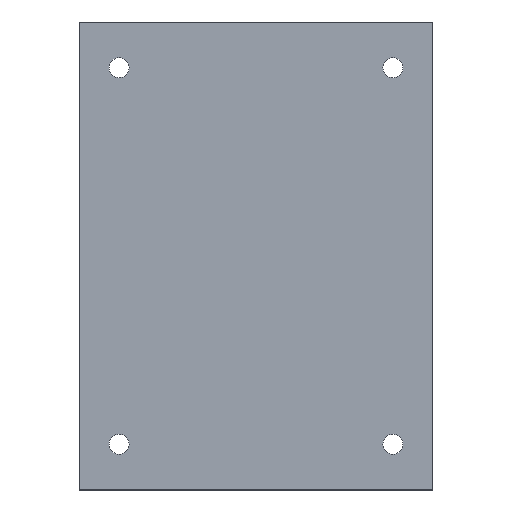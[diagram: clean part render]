
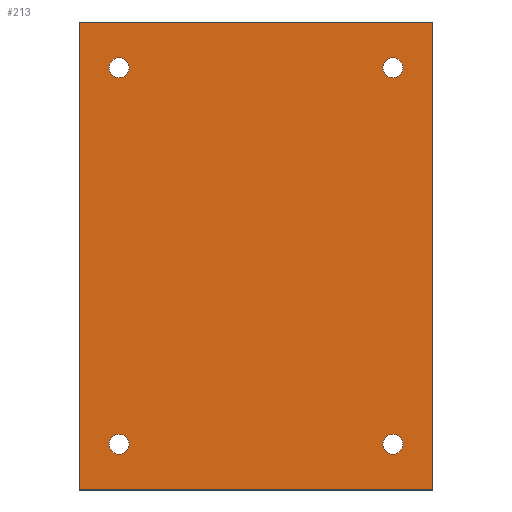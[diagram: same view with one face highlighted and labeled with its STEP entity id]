
A CAD part, top view. The second image highlights one B-rep face of the part: STEP entity #213.
In plain terms, the highlighted planar face has unit normal (0, 0, 1).
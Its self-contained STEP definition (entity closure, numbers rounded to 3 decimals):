
#24 = VERTEX_POINT('',#25);
#25 = CARTESIAN_POINT('',(0.,0.,3.));
#32 = PLANE('',#33);
#33 = AXIS2_PLACEMENT_3D('',#34,#35,#36);
#34 = CARTESIAN_POINT('',(0.,0.,0.));
#35 = DIRECTION('',(1.,0.,0.));
#36 = DIRECTION('',(0.,0.,1.));
#44 = PLANE('',#45);
#45 = AXIS2_PLACEMENT_3D('',#46,#47,#48);
#46 = CARTESIAN_POINT('',(0.,0.,0.));
#47 = DIRECTION('',(0.,1.,0.));
#48 = DIRECTION('',(0.,0.,1.));
#85 = VERTEX_POINT('',#86);
#86 = CARTESIAN_POINT('',(0.,82.,3.));
#100 = PLANE('',#101);
#101 = AXIS2_PLACEMENT_3D('',#102,#103,#104);
#102 = CARTESIAN_POINT('',(0.,82.,0.));
#103 = DIRECTION('',(0.,1.,0.));
#104 = DIRECTION('',(0.,0.,1.));
#112 = EDGE_CURVE('',#24,#85,#113,.T.);
#113 = SURFACE_CURVE('',#114,(#118,#125),.PCURVE_S1.);
#114 = LINE('',#115,#116);
#115 = CARTESIAN_POINT('',(0.,0.,3.));
#116 = VECTOR('',#117,1.);
#117 = DIRECTION('',(0.,1.,0.));
#118 = PCURVE('',#32,#119);
#119 = DEFINITIONAL_REPRESENTATION('',(#120),#124);
#120 = LINE('',#121,#122);
#121 = CARTESIAN_POINT('',(3.,0.));
#122 = VECTOR('',#123,1.);
#123 = DIRECTION('',(0.,-1.));
#124 = ( GEOMETRIC_REPRESENTATION_CONTEXT(2) 
PARAMETRIC_REPRESENTATION_CONTEXT() REPRESENTATION_CONTEXT('2D SPACE',''
  ) );
#125 = PCURVE('',#126,#131);
#126 = PLANE('',#127);
#127 = AXIS2_PLACEMENT_3D('',#128,#129,#130);
#128 = CARTESIAN_POINT('',(0.,0.,3.));
#129 = DIRECTION('',(0.,0.,1.));
#130 = DIRECTION('',(1.,0.,0.));
#131 = DEFINITIONAL_REPRESENTATION('',(#132),#136);
#132 = LINE('',#133,#134);
#133 = CARTESIAN_POINT('',(0.,0.));
#134 = VECTOR('',#135,1.);
#135 = DIRECTION('',(0.,1.));
#136 = ( GEOMETRIC_REPRESENTATION_CONTEXT(2) 
PARAMETRIC_REPRESENTATION_CONTEXT() REPRESENTATION_CONTEXT('2D SPACE',''
  ) );
#165 = EDGE_CURVE('',#24,#166,#168,.T.);
#166 = VERTEX_POINT('',#167);
#167 = CARTESIAN_POINT('',(62.,0.,3.));
#168 = SURFACE_CURVE('',#169,(#173,#180),.PCURVE_S1.);
#169 = LINE('',#170,#171);
#170 = CARTESIAN_POINT('',(0.,0.,3.));
#171 = VECTOR('',#172,1.);
#172 = DIRECTION('',(1.,0.,0.));
#173 = PCURVE('',#44,#174);
#174 = DEFINITIONAL_REPRESENTATION('',(#175),#179);
#175 = LINE('',#176,#177);
#176 = CARTESIAN_POINT('',(3.,0.));
#177 = VECTOR('',#178,1.);
#178 = DIRECTION('',(0.,1.));
#179 = ( GEOMETRIC_REPRESENTATION_CONTEXT(2) 
PARAMETRIC_REPRESENTATION_CONTEXT() REPRESENTATION_CONTEXT('2D SPACE',''
  ) );
#180 = PCURVE('',#126,#181);
#181 = DEFINITIONAL_REPRESENTATION('',(#182),#186);
#182 = LINE('',#183,#184);
#183 = CARTESIAN_POINT('',(0.,0.));
#184 = VECTOR('',#185,1.);
#185 = DIRECTION('',(1.,0.));
#186 = ( GEOMETRIC_REPRESENTATION_CONTEXT(2) 
PARAMETRIC_REPRESENTATION_CONTEXT() REPRESENTATION_CONTEXT('2D SPACE',''
  ) );
#202 = PLANE('',#203);
#203 = AXIS2_PLACEMENT_3D('',#204,#205,#206);
#204 = CARTESIAN_POINT('',(62.,0.,0.));
#205 = DIRECTION('',(1.,0.,0.));
#206 = DIRECTION('',(0.,0.,1.));
#213 = ADVANCED_FACE('',(#214,#262,#293,#324,#355),#126,.T.);
#214 = FACE_BOUND('',#215,.T.);
#215 = EDGE_LOOP('',(#216,#217,#218,#241));
#216 = ORIENTED_EDGE('',*,*,#112,.F.);
#217 = ORIENTED_EDGE('',*,*,#165,.T.);
#218 = ORIENTED_EDGE('',*,*,#219,.T.);
#219 = EDGE_CURVE('',#166,#220,#222,.T.);
#220 = VERTEX_POINT('',#221);
#221 = CARTESIAN_POINT('',(62.,82.,3.));
#222 = SURFACE_CURVE('',#223,(#227,#234),.PCURVE_S1.);
#223 = LINE('',#224,#225);
#224 = CARTESIAN_POINT('',(62.,0.,3.));
#225 = VECTOR('',#226,1.);
#226 = DIRECTION('',(0.,1.,0.));
#227 = PCURVE('',#126,#228);
#228 = DEFINITIONAL_REPRESENTATION('',(#229),#233);
#229 = LINE('',#230,#231);
#230 = CARTESIAN_POINT('',(62.,0.));
#231 = VECTOR('',#232,1.);
#232 = DIRECTION('',(0.,1.));
#233 = ( GEOMETRIC_REPRESENTATION_CONTEXT(2) 
PARAMETRIC_REPRESENTATION_CONTEXT() REPRESENTATION_CONTEXT('2D SPACE',''
  ) );
#234 = PCURVE('',#202,#235);
#235 = DEFINITIONAL_REPRESENTATION('',(#236),#240);
#236 = LINE('',#237,#238);
#237 = CARTESIAN_POINT('',(3.,0.));
#238 = VECTOR('',#239,1.);
#239 = DIRECTION('',(0.,-1.));
#240 = ( GEOMETRIC_REPRESENTATION_CONTEXT(2) 
PARAMETRIC_REPRESENTATION_CONTEXT() REPRESENTATION_CONTEXT('2D SPACE',''
  ) );
#241 = ORIENTED_EDGE('',*,*,#242,.F.);
#242 = EDGE_CURVE('',#85,#220,#243,.T.);
#243 = SURFACE_CURVE('',#244,(#248,#255),.PCURVE_S1.);
#244 = LINE('',#245,#246);
#245 = CARTESIAN_POINT('',(0.,82.,3.));
#246 = VECTOR('',#247,1.);
#247 = DIRECTION('',(1.,0.,0.));
#248 = PCURVE('',#126,#249);
#249 = DEFINITIONAL_REPRESENTATION('',(#250),#254);
#250 = LINE('',#251,#252);
#251 = CARTESIAN_POINT('',(0.,82.));
#252 = VECTOR('',#253,1.);
#253 = DIRECTION('',(1.,0.));
#254 = ( GEOMETRIC_REPRESENTATION_CONTEXT(2) 
PARAMETRIC_REPRESENTATION_CONTEXT() REPRESENTATION_CONTEXT('2D SPACE',''
  ) );
#255 = PCURVE('',#100,#256);
#256 = DEFINITIONAL_REPRESENTATION('',(#257),#261);
#257 = LINE('',#258,#259);
#258 = CARTESIAN_POINT('',(3.,0.));
#259 = VECTOR('',#260,1.);
#260 = DIRECTION('',(0.,1.));
#261 = ( GEOMETRIC_REPRESENTATION_CONTEXT(2) 
PARAMETRIC_REPRESENTATION_CONTEXT() REPRESENTATION_CONTEXT('2D SPACE',''
  ) );
#262 = FACE_BOUND('',#263,.T.);
#263 = EDGE_LOOP('',(#264));
#264 = ORIENTED_EDGE('',*,*,#265,.F.);
#265 = EDGE_CURVE('',#266,#266,#268,.T.);
#266 = VERTEX_POINT('',#267);
#267 = CARTESIAN_POINT('',(8.75,8.,3.));
#268 = SURFACE_CURVE('',#269,(#274,#281),.PCURVE_S1.);
#269 = CIRCLE('',#270,1.75);
#270 = AXIS2_PLACEMENT_3D('',#271,#272,#273);
#271 = CARTESIAN_POINT('',(7.,8.,3.));
#272 = DIRECTION('',(0.,0.,1.));
#273 = DIRECTION('',(1.,0.,-0.));
#274 = PCURVE('',#126,#275);
#275 = DEFINITIONAL_REPRESENTATION('',(#276),#280);
#276 = CIRCLE('',#277,1.75);
#277 = AXIS2_PLACEMENT_2D('',#278,#279);
#278 = CARTESIAN_POINT('',(7.,8.));
#279 = DIRECTION('',(1.,0.));
#280 = ( GEOMETRIC_REPRESENTATION_CONTEXT(2) 
PARAMETRIC_REPRESENTATION_CONTEXT() REPRESENTATION_CONTEXT('2D SPACE',''
  ) );
#281 = PCURVE('',#282,#287);
#282 = CYLINDRICAL_SURFACE('',#283,1.75);
#283 = AXIS2_PLACEMENT_3D('',#284,#285,#286);
#284 = CARTESIAN_POINT('',(7.,8.,-1.));
#285 = DIRECTION('',(0.,0.,1.));
#286 = DIRECTION('',(1.,0.,-0.));
#287 = DEFINITIONAL_REPRESENTATION('',(#288),#292);
#288 = LINE('',#289,#290);
#289 = CARTESIAN_POINT('',(0.,4.));
#290 = VECTOR('',#291,1.);
#291 = DIRECTION('',(1.,0.));
#292 = ( GEOMETRIC_REPRESENTATION_CONTEXT(2) 
PARAMETRIC_REPRESENTATION_CONTEXT() REPRESENTATION_CONTEXT('2D SPACE',''
  ) );
#293 = FACE_BOUND('',#294,.T.);
#294 = EDGE_LOOP('',(#295));
#295 = ORIENTED_EDGE('',*,*,#296,.F.);
#296 = EDGE_CURVE('',#297,#297,#299,.T.);
#297 = VERTEX_POINT('',#298);
#298 = CARTESIAN_POINT('',(56.75,8.,3.));
#299 = SURFACE_CURVE('',#300,(#305,#312),.PCURVE_S1.);
#300 = CIRCLE('',#301,1.75);
#301 = AXIS2_PLACEMENT_3D('',#302,#303,#304);
#302 = CARTESIAN_POINT('',(55.,8.,3.));
#303 = DIRECTION('',(0.,0.,1.));
#304 = DIRECTION('',(1.,0.,-0.));
#305 = PCURVE('',#126,#306);
#306 = DEFINITIONAL_REPRESENTATION('',(#307),#311);
#307 = CIRCLE('',#308,1.75);
#308 = AXIS2_PLACEMENT_2D('',#309,#310);
#309 = CARTESIAN_POINT('',(55.,8.));
#310 = DIRECTION('',(1.,0.));
#311 = ( GEOMETRIC_REPRESENTATION_CONTEXT(2) 
PARAMETRIC_REPRESENTATION_CONTEXT() REPRESENTATION_CONTEXT('2D SPACE',''
  ) );
#312 = PCURVE('',#313,#318);
#313 = CYLINDRICAL_SURFACE('',#314,1.75);
#314 = AXIS2_PLACEMENT_3D('',#315,#316,#317);
#315 = CARTESIAN_POINT('',(55.,8.,-1.));
#316 = DIRECTION('',(0.,0.,1.));
#317 = DIRECTION('',(1.,0.,-0.));
#318 = DEFINITIONAL_REPRESENTATION('',(#319),#323);
#319 = LINE('',#320,#321);
#320 = CARTESIAN_POINT('',(0.,4.));
#321 = VECTOR('',#322,1.);
#322 = DIRECTION('',(1.,0.));
#323 = ( GEOMETRIC_REPRESENTATION_CONTEXT(2) 
PARAMETRIC_REPRESENTATION_CONTEXT() REPRESENTATION_CONTEXT('2D SPACE',''
  ) );
#324 = FACE_BOUND('',#325,.T.);
#325 = EDGE_LOOP('',(#326));
#326 = ORIENTED_EDGE('',*,*,#327,.F.);
#327 = EDGE_CURVE('',#328,#328,#330,.T.);
#328 = VERTEX_POINT('',#329);
#329 = CARTESIAN_POINT('',(8.75,74.,3.));
#330 = SURFACE_CURVE('',#331,(#336,#343),.PCURVE_S1.);
#331 = CIRCLE('',#332,1.75);
#332 = AXIS2_PLACEMENT_3D('',#333,#334,#335);
#333 = CARTESIAN_POINT('',(7.,74.,3.));
#334 = DIRECTION('',(0.,0.,1.));
#335 = DIRECTION('',(1.,0.,-0.));
#336 = PCURVE('',#126,#337);
#337 = DEFINITIONAL_REPRESENTATION('',(#338),#342);
#338 = CIRCLE('',#339,1.75);
#339 = AXIS2_PLACEMENT_2D('',#340,#341);
#340 = CARTESIAN_POINT('',(7.,74.));
#341 = DIRECTION('',(1.,0.));
#342 = ( GEOMETRIC_REPRESENTATION_CONTEXT(2) 
PARAMETRIC_REPRESENTATION_CONTEXT() REPRESENTATION_CONTEXT('2D SPACE',''
  ) );
#343 = PCURVE('',#344,#349);
#344 = CYLINDRICAL_SURFACE('',#345,1.75);
#345 = AXIS2_PLACEMENT_3D('',#346,#347,#348);
#346 = CARTESIAN_POINT('',(7.,74.,-1.));
#347 = DIRECTION('',(0.,0.,1.));
#348 = DIRECTION('',(1.,0.,-0.));
#349 = DEFINITIONAL_REPRESENTATION('',(#350),#354);
#350 = LINE('',#351,#352);
#351 = CARTESIAN_POINT('',(0.,4.));
#352 = VECTOR('',#353,1.);
#353 = DIRECTION('',(1.,0.));
#354 = ( GEOMETRIC_REPRESENTATION_CONTEXT(2) 
PARAMETRIC_REPRESENTATION_CONTEXT() REPRESENTATION_CONTEXT('2D SPACE',''
  ) );
#355 = FACE_BOUND('',#356,.T.);
#356 = EDGE_LOOP('',(#357));
#357 = ORIENTED_EDGE('',*,*,#358,.F.);
#358 = EDGE_CURVE('',#359,#359,#361,.T.);
#359 = VERTEX_POINT('',#360);
#360 = CARTESIAN_POINT('',(56.75,74.,3.));
#361 = SURFACE_CURVE('',#362,(#367,#374),.PCURVE_S1.);
#362 = CIRCLE('',#363,1.75);
#363 = AXIS2_PLACEMENT_3D('',#364,#365,#366);
#364 = CARTESIAN_POINT('',(55.,74.,3.));
#365 = DIRECTION('',(0.,0.,1.));
#366 = DIRECTION('',(1.,0.,-0.));
#367 = PCURVE('',#126,#368);
#368 = DEFINITIONAL_REPRESENTATION('',(#369),#373);
#369 = CIRCLE('',#370,1.75);
#370 = AXIS2_PLACEMENT_2D('',#371,#372);
#371 = CARTESIAN_POINT('',(55.,74.));
#372 = DIRECTION('',(1.,0.));
#373 = ( GEOMETRIC_REPRESENTATION_CONTEXT(2) 
PARAMETRIC_REPRESENTATION_CONTEXT() REPRESENTATION_CONTEXT('2D SPACE',''
  ) );
#374 = PCURVE('',#375,#380);
#375 = CYLINDRICAL_SURFACE('',#376,1.75);
#376 = AXIS2_PLACEMENT_3D('',#377,#378,#379);
#377 = CARTESIAN_POINT('',(55.,74.,-1.));
#378 = DIRECTION('',(0.,0.,1.));
#379 = DIRECTION('',(1.,0.,-0.));
#380 = DEFINITIONAL_REPRESENTATION('',(#381),#385);
#381 = LINE('',#382,#383);
#382 = CARTESIAN_POINT('',(0.,4.));
#383 = VECTOR('',#384,1.);
#384 = DIRECTION('',(1.,0.));
#385 = ( GEOMETRIC_REPRESENTATION_CONTEXT(2) 
PARAMETRIC_REPRESENTATION_CONTEXT() REPRESENTATION_CONTEXT('2D SPACE',''
  ) );
